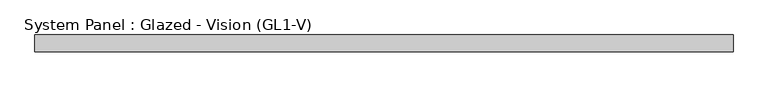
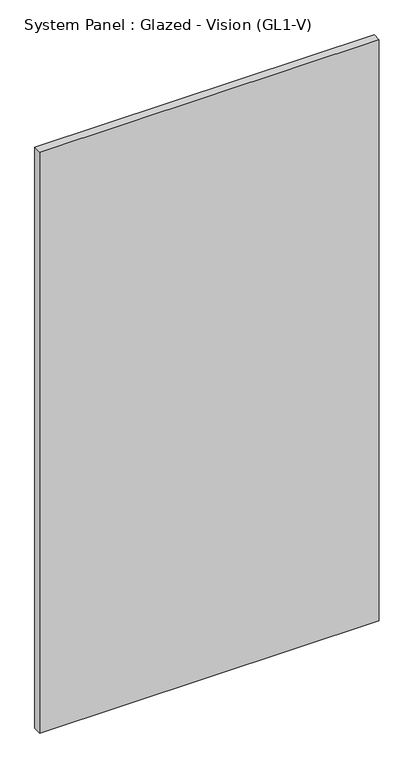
"""IFC4 building model written with IfcOpenShell, lengths in millimetres: plate geometry, System Panel : Glazed - Vision (GL1-V)."""

from ifc_helpers import new_model, si_unit, origin, origin_with_axes, place, context, project, spatial, polyline, outline, extrude, source, transform, mapped, element, save


def system_panel_glazed_vision_gl1_v_3224c7a8(model_context):
    return source(origin(), model_context, "Body", "SweptSolid", [
        extrude(outline(polyline([(527.05, -25.4), (-527.05, -25.4), (-527.05, 0.0), (527.05, 0.0), (527.05, -25.4)])), origin_with_axes(), (0.0, 0.0, 1.0), 1904.999999),
    ])


if __name__ == "__main__":
    model = new_model("IFC4")
    model_context = context("Model", 3, world=origin())
    ifc_project = project(units=[si_unit("LENGTHUNIT", "METRE", prefix="MILLI")], contexts=[model_context])
    site = spatial("IfcSite", under=ifc_project)
    building = spatial("IfcBuilding", under=site)
    placement = place(None, origin())
    system_panel_glazed_vision_gl1_v_shape = system_panel_glazed_vision_gl1_v_3224c7a8(model_context)
    element("IfcPlate", 1, ObjectType="System Panel : Glazed - Vision (GL1-V)", at=placement, inside=building, context=model_context, shape_type="MappedRepresentation", body=[
        mapped(system_panel_glazed_vision_gl1_v_shape, transform((0.0, 0.0, 0.0), x_axis=(1.0, 0.0, 0.0), y_axis=(0.0, 1.0, 0.0), z_axis=(0.0, 0.0, 1.0))),
    ])
    save(model, "model.ifc")
